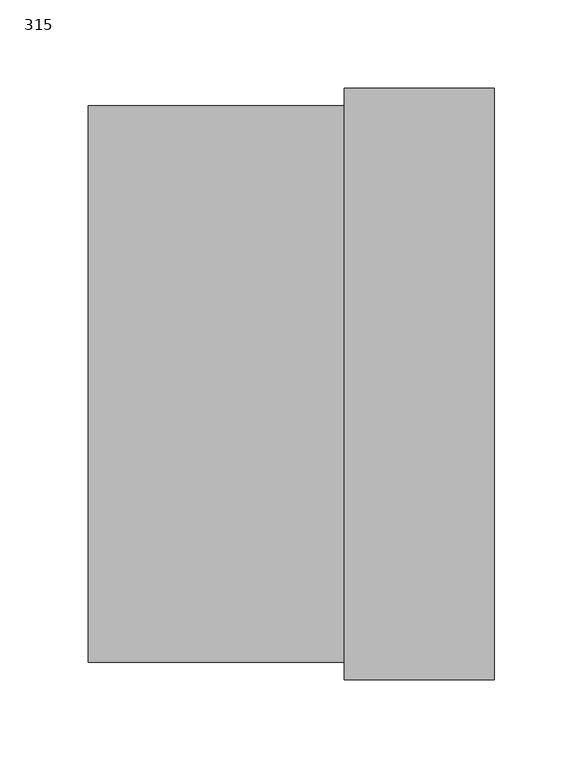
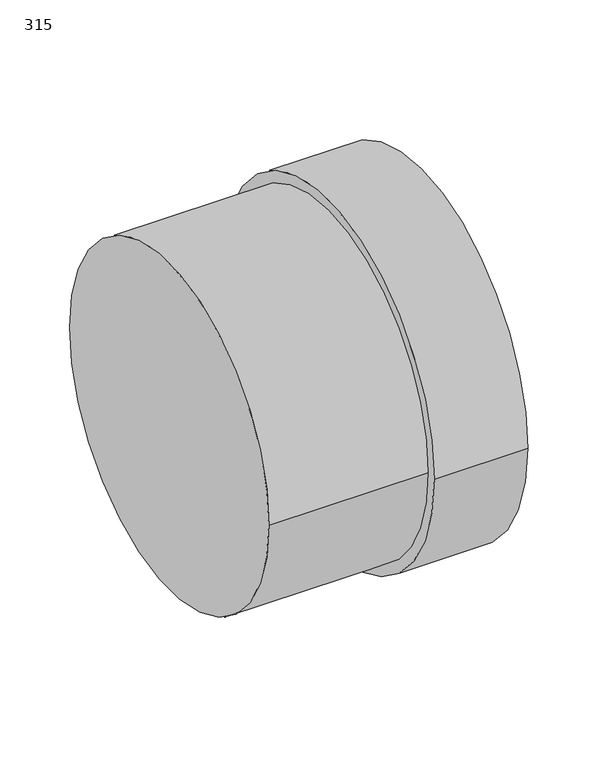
"""IFC4 building model written with IfcOpenShell, lengths in millimetres: pipe fitting geometry, Pipelife - PVC-U - Korek kanalizacyjny SDR34_studnia : 315."""

import ifcopenshell
import ifcopenshell.guid

model = None  # the IFC model being written
_history = None  # IfcOwnerHistory: only IFC2X3 demands one
_inside = {}  # id of a spatial element -> (the spatial element, [elements in it])
_under = {}  # id of a project, library or spatial element -> (it, [spatial elements below it])
_declared = {}  # id of a project -> (the project, [libraries it declares])
_typed = {}  # id of a type object -> (the type object, [elements of that type])
_made_of = {}  # id of a material, layer set ... -> (it, [elements and type objects made of it])


def new_model(schema):
    """Start an empty IFC model of exactly this schema.

    Asked for "IFC4X3", IfcOpenShell would pick the latest addendum, in which some entities
    have other attributes; the version numbers below select the first issue.
    IFC2X3 requires an IfcOwnerHistory on every rooted entity: one is made here for all.
    """
    global model, _history
    if schema == "IFC4X3":
        model = ifcopenshell.file(schema_version=(4, 3, 0, 0))
    else:
        model = ifcopenshell.file(schema=schema)
    _inside.clear()
    _under.clear()
    _declared.clear()
    _typed.clear()
    _made_of.clear()
    _history = None
    if model.schema == "IFC2X3":
        org = make("IfcOrganization", Name="unknown")
        user = make(
            "IfcPersonAndOrganization",
            ThePerson=make("IfcPerson", FamilyName="unknown"),
            TheOrganization=org,
        )
        app = make(
            "IfcApplication",
            ApplicationDeveloper=org,
            Version="unknown",
            ApplicationFullName="unknown",
            ApplicationIdentifier="unknown",
        )
        _history = make(
            "IfcOwnerHistory",
            OwningUser=user,
            OwningApplication=app,
            ChangeAction="ADDED",
            CreationDate=0,
        )
    return model


def make(cls, **values):
    """One entity of the class cls with the attributes given. An attribute that is None is left unset."""
    return model.create_entity(
        cls, **{name: value for name, value in values.items() if value is not None}
    )


def rooted(cls, **values):
    """An entity with a GlobalId (a new one), such as an element, a storey or a relation."""
    return make(cls, GlobalId=ifcopenshell.guid.new(), OwnerHistory=_history, **values)


def si_unit(unit_type, name, prefix=None):
    """IfcSIUnit, for example si_unit("LENGTHUNIT", "METRE", prefix="MILLI")."""
    return make("IfcSIUnit", UnitType=unit_type, Prefix=prefix, Name=name)


def assignment(units):
    """IfcUnitAssignment: the units of a project."""
    return None if units is None else make("IfcUnitAssignment", Units=units)


def point(xyz):
    """IfcCartesianPoint."""
    return None if xyz is None else make("IfcCartesianPoint", Coordinates=xyz)


def direction(xyz):
    """IfcDirection."""
    return None if xyz is None else make("IfcDirection", DirectionRatios=xyz)


def frame(location, z_axis=None, x_axis=None):
    """IfcAxis2Placement3D, a coordinate frame: its origin and axes. An axis left out is left unset."""
    return make(
        "IfcAxis2Placement3D",
        Location=point(location),
        Axis=direction(z_axis),
        RefDirection=direction(x_axis),
    )


def frame_2d(location, x_axis=None):
    """IfcAxis2Placement2D, a coordinate frame in the plane: its origin and x axis."""
    return make(
        "IfcAxis2Placement2D", Location=point(location), RefDirection=direction(x_axis)
    )


def origin():
    """The frame at (0, 0, 0) with its axes left unset."""
    return frame((0.0, 0.0, 0.0))


def origin_2d():
    """The frame at (0, 0) in the plane with its x axis left unset."""
    return frame_2d((0.0, 0.0))


def place(relative_to, where):
    """IfcLocalPlacement: puts the frame where relative to a parent placement (None: the world)."""
    return make(
        "IfcLocalPlacement", PlacementRelTo=relative_to, RelativePlacement=where
    )


def context(
    kind, dimensions, precision=None, world=None, true_north=None, identifier=None
):
    """IfcGeometricRepresentationContext, for example the 3D "Model" context."""
    return make(
        "IfcGeometricRepresentationContext",
        ContextIdentifier=identifier,
        ContextType=kind,
        CoordinateSpaceDimension=dimensions,
        Precision=precision,
        WorldCoordinateSystem=world,
        TrueNorth=true_north,
    )


def project(units=None, contexts=None):
    """IfcProject with its units and contexts."""
    return rooted(
        "IfcProject",
        Name="project",
        RepresentationContexts=contexts,
        UnitsInContext=assignment(units),
    )


def spatial(cls, under=None, at=None, **own):
    """A site, building, storey or space (cls), placed at a placement, below another one or the project."""
    s = rooted(cls, ObjectPlacement=at, **own)
    if under is not None:
        _under.setdefault(under.id(), (under, []))[1].append(s)
    return s


def circle_curve(where, radius):
    """IfcCircle in the frame where."""
    return make("IfcCircle", Position=where, Radius=radius)


def trimmed(basis, trim1, trim2, sense, master):
    """IfcTrimmedCurve: the piece of a basis curve between two trims."""
    return make(
        "IfcTrimmedCurve",
        BasisCurve=basis,
        Trim1=trim1,
        Trim2=trim2,
        SenseAgreement=sense,
        MasterRepresentation=master,
    )


def segment(curve, same_sense, transition):
    """IfcCompositeCurveSegment."""
    return make(
        "IfcCompositeCurveSegment",
        Transition=transition,
        SameSense=same_sense,
        ParentCurve=curve,
    )


def composite_curve(segments, self_intersect=None):
    """IfcCompositeCurve: segments joined end to end."""
    return make("IfcCompositeCurve", Segments=segments, SelfIntersect=self_intersect)


def outline(outer, holes=None, kind="AREA"):
    """IfcArbitraryClosedProfileDef: a profile drawn as a closed curve; with holes, ...WithVoids."""
    if holes is None:
        return make("IfcArbitraryClosedProfileDef", ProfileType=kind, OuterCurve=outer)
    return make(
        "IfcArbitraryProfileDefWithVoids",
        ProfileType=kind,
        OuterCurve=outer,
        InnerCurves=holes,
    )


def extrude(swept, where, along, depth):
    """IfcExtrudedAreaSolid: the profile swept, set in the frame where, extruded along a direction by depth."""
    return make(
        "IfcExtrudedAreaSolid",
        SweptArea=swept,
        Position=where,
        ExtrudedDirection=direction(along),
        Depth=depth,
    )


def shape(context_of_items, identifier, shape_type, items):
    """IfcShapeRepresentation: the items that make up one representation, for example the "Body"."""
    return make(
        "IfcShapeRepresentation",
        ContextOfItems=context_of_items,
        RepresentationIdentifier=identifier,
        RepresentationType=shape_type,
        Items=items,
    )


def source(mapping_origin, context_of_items, identifier, shape_type, items):
    """IfcRepresentationMap: a shape defined once, which mapped items show again and again."""
    return make(
        "IfcRepresentationMap",
        MappingOrigin=mapping_origin,
        MappedRepresentation=shape(context_of_items, identifier, shape_type, items),
    )


def transform(
    local_origin,
    x_axis=None,
    y_axis=None,
    z_axis=None,
    scale=None,
    scale2=None,
    scale3=None,
    uniform=True,
):
    """IfcCartesianTransformationOperator3D, or its non-uniform kind. x_axis, y_axis, z_axis: its Axis1, 2, 3."""
    if uniform:
        return make(
            "IfcCartesianTransformationOperator3D",
            Axis1=direction(x_axis),
            Axis2=direction(y_axis),
            LocalOrigin=point(local_origin),
            Scale=scale,
            Axis3=direction(z_axis),
        )
    return make(
        "IfcCartesianTransformationOperator3DnonUniform",
        Axis1=direction(x_axis),
        Axis2=direction(y_axis),
        LocalOrigin=point(local_origin),
        Scale=scale,
        Axis3=direction(z_axis),
        Scale2=scale2,
        Scale3=scale3,
    )


def mapped(mapping_source, mapping_target):
    """IfcMappedItem: shows the shape of a source again, moved by a transform."""
    return make(
        "IfcMappedItem", MappingSource=mapping_source, MappingTarget=mapping_target
    )


def made_of(thing, what):
    """Note that an element or type object is made of a material, layer set ...; save() writes the relation."""
    if what is not None:
        _made_of.setdefault(what.id(), (what, []))[1].append(thing)
    return thing


def element(
    cls,
    number,
    at=None,
    inside=None,
    cuts=None,
    type_object=None,
    material=None,
    context=None,
    identifier="Body",
    shape_type=None,
    held_by="IfcProductDefinitionShape",
    body=None,
    shapes=None,
    **own,
):
    """One element of the class cls, such as IfcWall. Its Tag is "e" and its number.

    at: its placement. inside: the storey or other place that contains it. cuts: it is an
    opening in that element (IfcRelVoidsElement). A single representation is given by context,
    identifier, shape_type and body (its items); several are given by shapes. held_by: the class
    of the entity that holds the representations. save() writes the other relations.
    """
    e = rooted(cls, Tag="e%d" % number, ObjectPlacement=at, **own)
    if body is not None:
        shapes = [shape(context, identifier, shape_type, body)]
    if shapes is not None:
        e.Representation = make(held_by, Representations=shapes)
    if inside is not None:
        _inside.setdefault(inside.id(), (inside, []))[1].append(e)
    if cuts is not None:
        rooted(
            "IfcRelVoidsElement", RelatingBuildingElement=cuts, RelatedOpeningElement=e
        )
    if type_object is not None:
        _typed.setdefault(type_object.id(), (type_object, []))[1].append(e)
    return made_of(e, material)


def aggregate(whole, parts):
    """IfcRelAggregates: a whole, such as a stair, and the parts it consists of."""
    return rooted("IfcRelAggregates", RelatingObject=whole, RelatedObjects=parts)


def save(model, path):
    """Write the relations noted so far, then the file.

    IfcRelAggregates (storeys below a building ...), IfcRelContainedInSpatialStructure (elements
    in a storey), IfcRelDefinesByType, IfcRelAssociatesMaterial and IfcRelDeclares: one each for
    every whole, place, type object, material and project.
    """
    for whole, parts in _under.values():
        aggregate(whole, parts)
    for where, things in _inside.values():
        rooted(
            "IfcRelContainedInSpatialStructure",
            RelatedElements=things,
            RelatingStructure=where,
        )
    for kind, things in _typed.values():
        rooted("IfcRelDefinesByType", RelatedObjects=things, RelatingType=kind)
    for what, things in _made_of.values():
        rooted("IfcRelAssociatesMaterial", RelatedObjects=things, RelatingMaterial=what)
    for by, libraries in _declared.values():
        rooted("IfcRelDeclares", RelatingContext=by, RelatedDefinitions=libraries)
    model.write(path)


def pipe_fitting_315_8c4225d6(model_context):
    return source(origin(), model_context, "Body", "SweptSolid", [
        extrude(outline(composite_curve([segment(trimmed(circle_curve(origin_2d(), 157.5), [point((-157.5, 0.0))], [point((157.5, 0.0))], False, "CARTESIAN"), True, "CONTINUOUS"), segment(trimmed(circle_curve(origin_2d(), 157.5), [point((157.5, 0.0))], [point((-157.5, 0.0))], False, "CARTESIAN"), True, "CONTINUOUS")], self_intersect=False)), frame((-145.0, 0.0, 0.0), z_axis=(1.0, 0.0, 0.0), x_axis=(0.0, 1.0, 0.0)), (0.0, 0.0, 1.0), 145.0),
        extrude(outline(composite_curve([segment(trimmed(circle_curve(origin_2d(), 167.5), [point((-167.5, 0.0))], [point((167.5, 0.0))], False, "CARTESIAN"), True, "CONTINUOUS"), segment(trimmed(circle_curve(origin_2d(), 167.5), [point((167.5, 0.0))], [point((-167.5, 0.0))], False, "CARTESIAN"), True, "CONTINUOUS")], self_intersect=False)), frame((0.0, 0.0, 0.0), z_axis=(1.0, 0.0, 0.0), x_axis=(0.0, 1.0, 0.0)), (0.0, 0.0, 1.0), 85.0),
    ])


if __name__ == "__main__":
    model = new_model("IFC4")
    model_context = context("Model", 3, world=origin())
    ifc_project = project(units=[si_unit("LENGTHUNIT", "METRE", prefix="MILLI")], contexts=[model_context])
    site = spatial("IfcSite", under=ifc_project)
    building = spatial("IfcBuilding", under=site)
    placement = place(None, origin())
    pipe_fitting_315_shape = pipe_fitting_315_8c4225d6(model_context)
    element("IfcPipeFitting", 1, ObjectType="Pipelife - PVC-U - Korek kanalizacyjny SDR34_studnia : 315", at=placement, inside=building, context=model_context, shape_type="MappedRepresentation", body=[
        mapped(pipe_fitting_315_shape, transform((0.0, 0.0, 0.0), x_axis=(1.0, 0.0, 0.0), y_axis=(0.0, 1.0, 0.0), z_axis=(0.0, 0.0, 1.0))),
    ])
    save(model, "model.ifc")
